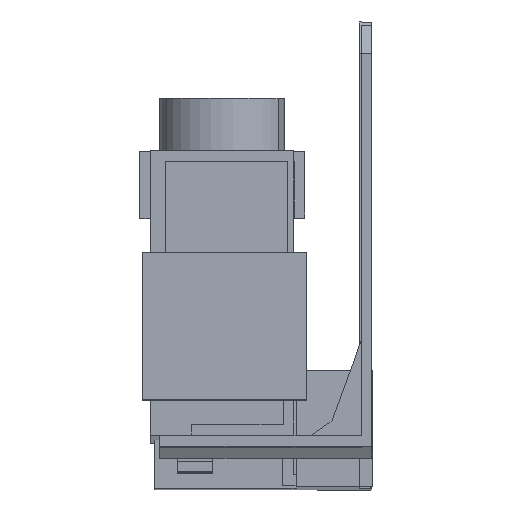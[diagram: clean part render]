
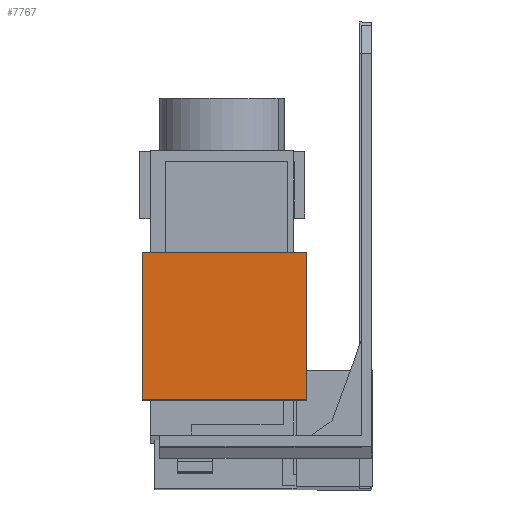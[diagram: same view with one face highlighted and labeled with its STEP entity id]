
A CAD part, front view. The second image highlights one B-rep face of the part: STEP entity #7767.
In plain terms, the highlighted planar face has unit normal (0, -1, 0.003).
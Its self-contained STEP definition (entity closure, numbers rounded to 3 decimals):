
#872 = EDGE_LOOP ( 'NONE', ( #1628, #1629, #1630, #1631 ) ) ;
#1264 = CARTESIAN_POINT ( 'NONE',  ( -9.3, -31.509, -40.315 ) ) ;
#1273 = DIRECTION ( 'NONE',  ( -1., 0., 0. ) ) ;
#1628 = ORIENTED_EDGE ( 'NONE', *, *, #5641, .T. ) ;
#1629 = ORIENTED_EDGE ( 'NONE', *, *, #5702, .F. ) ;
#1630 = ORIENTED_EDGE ( 'NONE', *, *, #5155, .F. ) ;
#1631 = ORIENTED_EDGE ( 'NONE', *, *, #5017, .T. ) ;
#2063 = LINE ( 'NONE', #7490, #2069 ) ;
#2069 = VECTOR ( 'NONE', #7505, 1000. ) ;
#2155 = VECTOR ( 'NONE', #1273, 1000. ) ;
#2158 = LINE ( 'NONE', #1264, #2155 ) ;
#2450 = LINE ( 'NONE', #2869, #2466 ) ;
#2466 = VECTOR ( 'NONE', #2874, 1000. ) ;
#2482 = VECTOR ( 'NONE', #2899, 1000. ) ;
#2486 = LINE ( 'NONE', #2891, #2482 ) ;
#2869 = CARTESIAN_POINT ( 'NONE',  ( -9.3, -31.452, -19.316 ) ) ;
#2874 = DIRECTION ( 'NONE',  ( -1., 0., 0. ) ) ;
#2891 = CARTESIAN_POINT ( 'NONE',  ( -32.7, -31.509, -40.315 ) ) ;
#2899 = DIRECTION ( 'NONE',  ( 0., 0.003, 1. ) ) ;
#3737 = CARTESIAN_POINT ( 'NONE',  ( -9.3, -31.509, -40.315 ) ) ;
#3747 = CARTESIAN_POINT ( 'NONE',  ( -9.3, -31.452, -19.316 ) ) ;
#3749 = CARTESIAN_POINT ( 'NONE',  ( -32.7, -31.452, -19.316 ) ) ;
#3752 = CARTESIAN_POINT ( 'NONE',  ( -32.7, -31.509, -40.315 ) ) ;
#4650 = FACE_OUTER_BOUND ( 'NONE', #872, .T. ) ;
#5017 = EDGE_CURVE ( 'NONE', #6995, #7005, #2063, .T. ) ;
#5155 = EDGE_CURVE ( 'NONE', #6995, #7010, #2158, .T. ) ;
#5641 = EDGE_CURVE ( 'NONE', #7005, #7007, #2450, .T. ) ;
#5702 = EDGE_CURVE ( 'NONE', #7010, #7007, #2486, .T. ) ;
#6101 = PLANE ( 'NONE',  #6339 ) ;
#6104 = CARTESIAN_POINT ( 'NONE',  ( -9.3, -31.509, -40.315 ) ) ;
#6111 = DIRECTION ( 'NONE',  ( 0., -1., 0.003 ) ) ;
#6113 = DIRECTION ( 'NONE',  ( 1., 0., 0. ) ) ;
#6339 = AXIS2_PLACEMENT_3D ( 'NONE', #6104, #6111, #6113 ) ;
#6995 = VERTEX_POINT ( 'NONE', #3737 ) ;
#7005 = VERTEX_POINT ( 'NONE', #3747 ) ;
#7007 = VERTEX_POINT ( 'NONE', #3749 ) ;
#7010 = VERTEX_POINT ( 'NONE', #3752 ) ;
#7490 = CARTESIAN_POINT ( 'NONE',  ( -9.3, -31.509, -40.315 ) ) ;
#7505 = DIRECTION ( 'NONE',  ( 0., 0.003, 1. ) ) ;
#7767 = ADVANCED_FACE ( 'NONE', ( #4650 ), #6101, .T. ) ;
